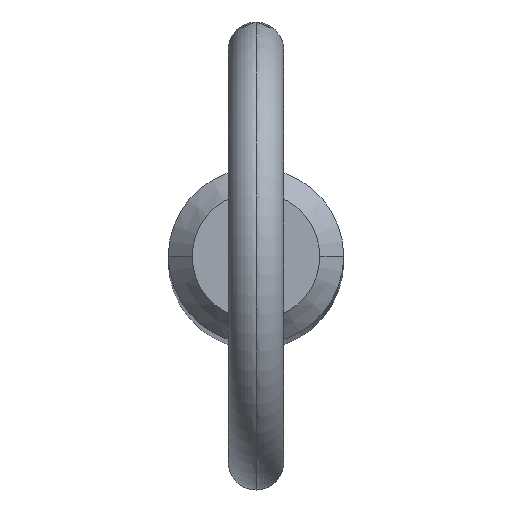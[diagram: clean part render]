
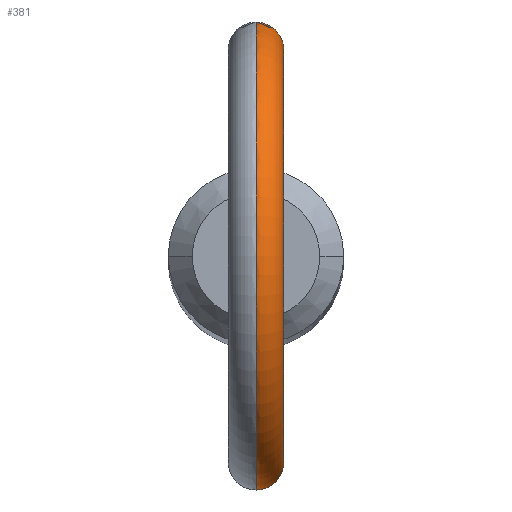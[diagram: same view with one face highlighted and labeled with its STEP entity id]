
A CAD part, top view. The second image highlights one B-rep face of the part: STEP entity #381.
In plain terms, the highlighted toroidal (fillet/blend) face has major radius 11.2 mm and minor radius 1.5 mm.
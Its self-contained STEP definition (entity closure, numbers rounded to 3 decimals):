
#1 = CARTESIAN_POINT ( 'NONE',  ( 0., -4.76, 145.726 ) ) ;
#2 = VERTEX_POINT ( 'NONE', #432 ) ;
#10 = B_SPLINE_CURVE_WITH_KNOTS ( 'NONE', 3,
 ( #134, #208, #178, #255, #252, #297, #296, #132, #175, #62, #418, #332, #462, #64, #129, #415, #21, #95, #372, #375, #292, #330, #130, #374 ),
 .UNSPECIFIED., .F., .F.,
 ( 4, 2, 2, 2, 2, 2, 2, 2, 2, 2, 2, 4 ),
 ( 0.001, 0.001, 0.001, 0.002, 0.002, 0.002, 0.003, 0.004, 0.004, 0.005, 0.005, 0.006 ),
 .UNSPECIFIED. ) ;
#11 = CARTESIAN_POINT ( 'NONE',  ( 0., 4.76, 145.726 ) ) ;
#16 = DIRECTION ( 'NONE',  ( 1., 0., 0. ) ) ;
#21 = CARTESIAN_POINT ( 'NONE',  ( 1.188, 4.611, 148.327 ) ) ;
#29 = CARTESIAN_POINT ( 'NONE',  ( 0.409, -4.743, 148.978 ) ) ;
#36 = AXIS2_PLACEMENT_3D ( 'NONE', #198, #241, #315 ) ;
#37 = CARTESIAN_POINT ( 'NONE',  ( 1.385, -4.554, 146.632 ) ) ;
#58 = VERTEX_POINT ( 'NONE', #11 ) ;
#60 = CARTESIAN_POINT ( 'NONE',  ( 1.478, -4.525, 147.552 ) ) ;
#62 = CARTESIAN_POINT ( 'NONE',  ( 1.343, 4.567, 146.537 ) ) ;
#64 = CARTESIAN_POINT ( 'NONE',  ( 1.487, 4.522, 147.553 ) ) ;
#65 = CARTESIAN_POINT ( 'NONE',  ( 0.506, -4.734, 148.937 ) ) ;
#75 = FACE_OUTER_BOUND ( 'NONE', #453, .T. ) ;
#88 = CARTESIAN_POINT ( 'NONE',  ( 0., 0., 157.5 ) ) ;
#95 = CARTESIAN_POINT ( 'NONE',  ( 0.996, 4.655, 148.566 ) ) ;
#104 = CARTESIAN_POINT ( 'NONE',  ( 0., -4.76, 149.048 ) ) ;
#111 = CARTESIAN_POINT ( 'NONE',  ( 1.19, -4.611, 148.324 ) ) ;
#113 = CARTESIAN_POINT ( 'NONE',  ( 1.178, -4.613, 146.276 ) ) ;
#116 = CARTESIAN_POINT ( 'NONE',  ( 0.97, -4.662, 146.05 ) ) ;
#129 = CARTESIAN_POINT ( 'NONE',  ( 1.441, 4.537, 147.759 ) ) ;
#130 = CARTESIAN_POINT ( 'NONE',  ( 0.208, 4.76, 149.048 ) ) ;
#132 = CARTESIAN_POINT ( 'NONE',  ( 1.177, 4.613, 146.275 ) ) ;
#134 = CARTESIAN_POINT ( 'NONE',  ( 0., 4.76, 145.726 ) ) ;
#140 = CARTESIAN_POINT ( 'NONE',  ( 0., 0., 157.5 ) ) ;
#154 = EDGE_CURVE ( 'NONE', #58, #290, #413, .T. ) ;
#166 = CARTESIAN_POINT ( 'NONE',  ( 0., -4.76, 149.048 ) ) ;
#175 = CARTESIAN_POINT ( 'NONE',  ( 1.239, 4.596, 146.359 ) ) ;
#178 = CARTESIAN_POINT ( 'NONE',  ( 0.207, 4.757, 145.736 ) ) ;
#182 = CARTESIAN_POINT ( 'NONE',  ( 0.77, -4.698, 148.775 ) ) ;
#185 = ORIENTED_EDGE ( 'NONE', *, *, #518, .F. ) ;
#187 = VERTEX_POINT ( 'NONE', #166 ) ;
#190 = CARTESIAN_POINT ( 'NONE',  ( 1.499, -4.518, 147.137 ) ) ;
#192 = CARTESIAN_POINT ( 'NONE',  ( 1.24, -4.596, 146.36 ) ) ;
#194 = CARTESIAN_POINT ( 'NONE',  ( 0.208, -4.757, 145.736 ) ) ;
#198 = CARTESIAN_POINT ( 'NONE',  ( 0., 0., 157.5 ) ) ;
#208 = CARTESIAN_POINT ( 'NONE',  ( 0.104, 4.76, 145.726 ) ) ;
#219 = CARTESIAN_POINT ( 'NONE',  ( 0.209, -4.756, 149.034 ) ) ;
#228 = CARTESIAN_POINT ( 'NONE',  ( 1.473, -4.526, 146.931 ) ) ;
#229 = CARTESIAN_POINT ( 'NONE',  ( 0.105, -4.76, 145.726 ) ) ;
#236 = CARTESIAN_POINT ( 'NONE',  ( 1.45, -4.534, 146.828 ) ) ;
#241 = DIRECTION ( 'NONE',  ( 1., 0., 0. ) ) ;
#252 = CARTESIAN_POINT ( 'NONE',  ( 0.511, 4.733, 145.808 ) ) ;
#255 = CARTESIAN_POINT ( 'NONE',  ( 0.411, 4.743, 145.777 ) ) ;
#270 = CARTESIAN_POINT ( 'NONE',  ( 0.411, -4.743, 145.777 ) ) ;
#277 = B_SPLINE_CURVE_WITH_KNOTS ( 'NONE', 3,
 ( #104, #428, #219, #29, #65, #386, #182, #468, #431, #111, #510, #337, #423, #60, #364, #476, #190, #228, #236, #37, #397, #192, #113, #116, #398, #479, #270, #194, #229, #1 ),
 .UNSPECIFIED., .F., .F.,
 ( 4, 2, 2, 2, 2, 2, 2, 2, 2, 2, 2, 2, 2, 2, 4 ),
 ( 0.004, 0.005, 0.005, 0.005, 0.006, 0.006, 0.007, 0.007, 0.007, 0.007, 0.008, 0.008, 0.009, 0.009, 0.009 ),
 .UNSPECIFIED. ) ;
#289 = EDGE_CURVE ( 'NONE', #58, #2, #10, .T. ) ;
#290 = VERTEX_POINT ( 'NONE', #328 ) ;
#292 = CARTESIAN_POINT ( 'NONE',  ( 0.685, 4.711, 148.836 ) ) ;
#296 = CARTESIAN_POINT ( 'NONE',  ( 0.968, 4.663, 146.049 ) ) ;
#297 = CARTESIAN_POINT ( 'NONE',  ( 0.795, 4.697, 145.928 ) ) ;
#315 = DIRECTION ( 'NONE',  ( 0., 0., -1. ) ) ;
#328 = CARTESIAN_POINT ( 'NONE',  ( 0., -4.76, 145.726 ) ) ;
#330 = CARTESIAN_POINT ( 'NONE',  ( 0.415, 4.745, 148.988 ) ) ;
#332 = CARTESIAN_POINT ( 'NONE',  ( 1.484, 4.523, 146.928 ) ) ;
#336 = ORIENTED_EDGE ( 'NONE', *, *, #289, .F. ) ;
#337 = CARTESIAN_POINT ( 'NONE',  ( 1.404, -4.548, 147.853 ) ) ;
#364 = CARTESIAN_POINT ( 'NONE',  ( 1.492, -4.52, 147.448 ) ) ;
#372 = CARTESIAN_POINT ( 'NONE',  ( 0.925, 4.67, 148.64 ) ) ;
#374 = CARTESIAN_POINT ( 'NONE',  ( 0., 4.76, 149.048 ) ) ;
#375 = CARTESIAN_POINT ( 'NONE',  ( 0.771, 4.698, 148.775 ) ) ;
#381 = ADVANCED_FACE ( 'NONE', ( #75 ), #500, .T. ) ;
#386 = CARTESIAN_POINT ( 'NONE',  ( 0.687, -4.711, 148.835 ) ) ;
#389 = EDGE_CURVE ( 'NONE', #187, #290, #277, .T. ) ;
#397 = CARTESIAN_POINT ( 'NONE',  ( 1.344, -4.567, 146.539 ) ) ;
#398 = CARTESIAN_POINT ( 'NONE',  ( 0.797, -4.697, 145.929 ) ) ;
#405 = DIRECTION ( 'NONE',  ( 0., 0., -1. ) ) ;
#413 = CIRCLE ( 'NONE', #497, 12.7 ) ;
#414 = ORIENTED_EDGE ( 'NONE', *, *, #154, .T. ) ;
#415 = CARTESIAN_POINT ( 'NONE',  ( 1.292, 4.582, 148.144 ) ) ;
#417 = AXIS2_PLACEMENT_3D ( 'NONE', #140, #424, #467 ) ;
#418 = CARTESIAN_POINT ( 'NONE',  ( 1.385, 4.554, 146.63 ) ) ;
#423 = CARTESIAN_POINT ( 'NONE',  ( 1.434, -4.539, 147.754 ) ) ;
#424 = DIRECTION ( 'NONE',  ( 1., 0., 0. ) ) ;
#428 = CARTESIAN_POINT ( 'NONE',  ( 0.104, -4.76, 149.048 ) ) ;
#431 = CARTESIAN_POINT ( 'NONE',  ( 0.997, -4.655, 148.564 ) ) ;
#432 = CARTESIAN_POINT ( 'NONE',  ( 0., 4.76, 149.048 ) ) ;
#453 = EDGE_LOOP ( 'NONE', ( #336, #414, #472, #185 ) ) ;
#462 = CARTESIAN_POINT ( 'NONE',  ( 1.508, 4.515, 147.137 ) ) ;
#467 = DIRECTION ( 'NONE',  ( 0., 0., -1. ) ) ;
#468 = CARTESIAN_POINT ( 'NONE',  ( 0.925, -4.67, 148.639 ) ) ;
#472 = ORIENTED_EDGE ( 'NONE', *, *, #389, .F. ) ;
#476 = CARTESIAN_POINT ( 'NONE',  ( 1.503, -4.517, 147.24 ) ) ;
#479 = CARTESIAN_POINT ( 'NONE',  ( 0.512, -4.733, 145.808 ) ) ;
#497 = AXIS2_PLACEMENT_3D ( 'NONE', #88, #16, #405 ) ;
#500 = TOROIDAL_SURFACE ( 'NONE', #417, 11.2, 1.5 ) ;
#510 = CARTESIAN_POINT ( 'NONE',  ( 1.293, -4.582, 148.142 ) ) ;
#512 = CIRCLE ( 'NONE', #36, 9.7 ) ;
#518 = EDGE_CURVE ( 'NONE', #2, #187, #512, .T. ) ;
